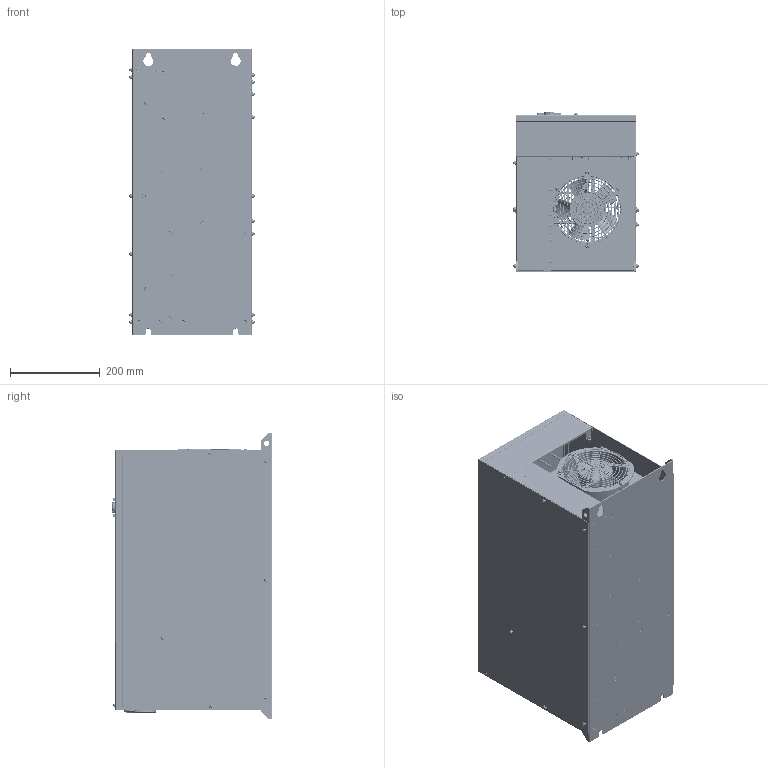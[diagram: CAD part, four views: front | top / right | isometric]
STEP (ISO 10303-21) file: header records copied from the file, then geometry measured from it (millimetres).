
FILE_DESCRIPTION(/* description */ (''),/* implementation_level */ '2;1');
FILE_NAME(/* name */ 'VF302C-B7-3d.step',/* time_stamp */ '2023-03-02T11:28:43+07:00',/* author */ (''),/* organization */ (''),/* preprocessor_version */ 'ST-DEVELOPER v19.2',/* originating_system */ 'Autodesk Translation Framework v11.17.0.187',/* authorisation */ '');
FILE_SCHEMA (('AUTOMOTIVE_DESIGN { 1 0 10303 214 3 1 1 }'));
Products named in the file (29): (Unsaved); VF302C-B7-D_ASM; VF302C-B7-P_ASM; ASM0001_ASM; P021_ASM; VF302C-B7-C_ASM; VF302C-B7-DS_ASM; M4X60_GB9074_8; M6X16_GB9074_13; M8X25_GB9074_13; M4X35_GB9074_8; M10_GB97_1; M10_GB93_87; M10_GB6170; M4X10_GB819_1; M4X12_GB9074_8; M3X8_GB9074_8; M6X14_GB9074_8; M6X16_GB9074_8; M5X12_GB9074_8; M4X10_GB9074_8; VEDAVFD; display_2; knopka_pusk; knopka_stop; knopka_prg2; knopka_jog_rev; tablichka3_gc_v_a; gc_v_a
Assembly tree (152 placements, depth 3):
  (Unsaved)
    VF302C-B7-D_ASM
    VF302C-B7-P_ASM
      ASM0001_ASM
      P021_ASM
    VF302C-B7-C_ASM
    VF302C-B7-DS_ASM
      M6X14_GB9074_8  x25
      M4X10_GB9074_8  x41
      M4X60_GB9074_8  x3
      M6X16_GB9074_13  x2
      M8X25_GB9074_13  x8
      M5X12_GB9074_8  x16
      M4X35_GB9074_8  x2
      M10_GB97_1  x2
      M10_GB93_87  x2
      M10_GB6170  x2
      M4X10_GB819_1
      M3X8_GB9074_8  x6
      M4X12_GB9074_8  x10
      M6X16_GB9074_8  x18
    VEDAVFD
    display_2
      knopka_pusk
      knopka_stop
      knopka_prg2
      knopka_jog_rev
    tablichka3_gc_v_a
      gc_v_a
Bounding box: 279.38 x 357.97 x 638 mm (x, y, z)
Volume: 3193193.2 mm3; surface area: 3515038.7 mm2
Topology: 357 solids, 489 shells, 23442 faces, 60531 edges, 39448 vertices
Faces by surface type: plane 16386, cylinder 3332, bspline 2578, cone 466, torus 428, sphere 252
Full cylindrical faces by diameter (mm): 0.1 x4, 0.5 x8, 0.8 x30, 0.9 x8, 1 x19, 1.08 x1, 1.2 x2, 1.5 x4, 1.6 x2, 1.625 x2, 1.8 x8, 2 x86, 2.2 x12, 2.5 x57, 2.6 x6, 2.65 x12, 3 x19, 3.2 x3, 3.5 x75, 3.6 x28, 3.8 x20, 4 x127, 4.2 x34, 4.39 x2, 4.5 x32, 4.99 x4, 5 x99, 5.38 x28, 5.39 x6, 5.4 x38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
Entity records: 689223 total; most frequent: CARTESIAN_POINT 182221, ORIENTED_EDGE 106528, DIRECTION 95921, EDGE_CURVE 53275, LINE 39927, VECTOR 39927, VERTEX_POINT 34649, AXIS2_PLACEMENT_3D 27997
